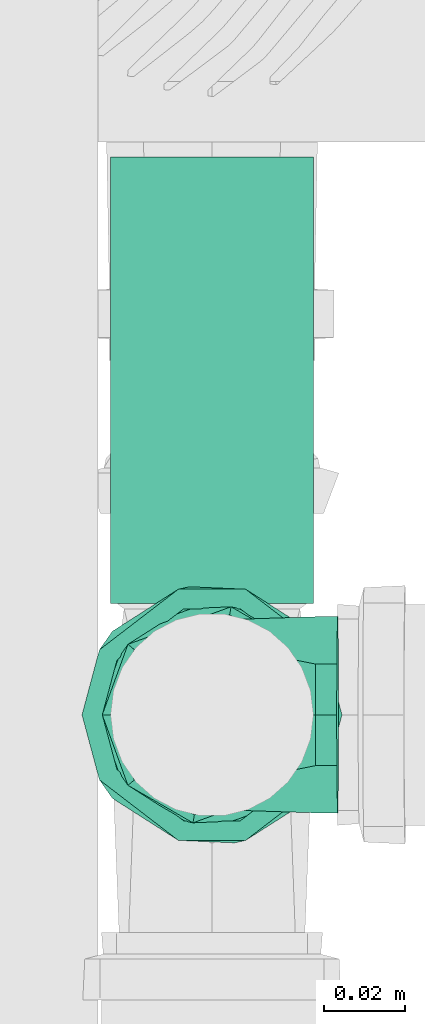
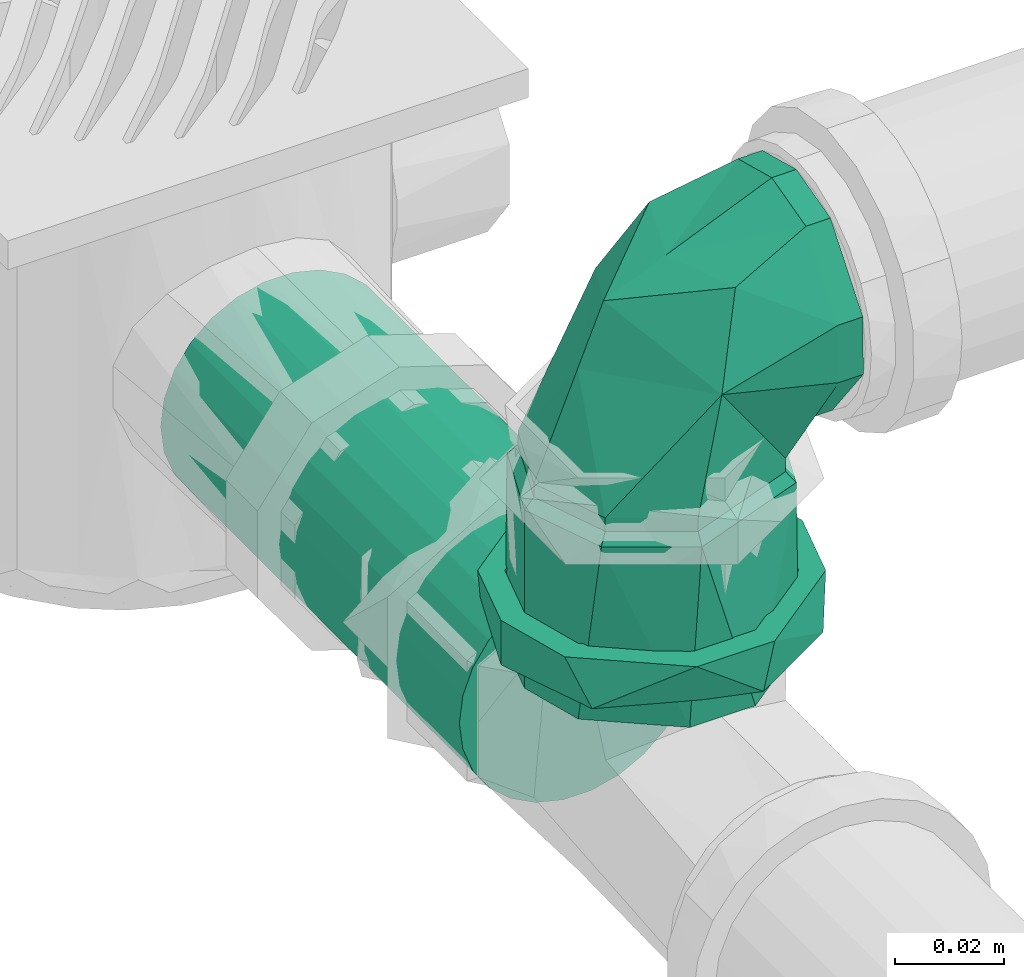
# One storey, part 145 of 589: 1 flow fitting, 1 flow segment.
"""IFC2X3 building model written with IfcOpenShell, lengths in millimetres."""

from ifc_helpers import new_model, entity, si_unit, converted_unit, derived_unit, direction, frame, frame_2d, origin, place, context, subcontext, project, spatial, circle, extrude, faceted_brep, source, transform, mapped, material, type_object, type_shapes, element, save


model = new_model("IFC2X3")

# Units and contexts
model_context = context("Model", 3, precision=0.01, world=origin(), true_north=direction((6.123031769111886e-17, 1.0)))
body_context = subcontext(model_context, "Body", "Model", "MODEL_VIEW")
ifc_project = project(units=[si_unit("LENGTHUNIT", "METRE", prefix="MILLI"), si_unit("AREAUNIT", "SQUARE_METRE"), si_unit("VOLUMEUNIT", "CUBIC_METRE"), converted_unit("PLANEANGLEUNIT", "DEGREE", entity("IfcRatioMeasure", 0.017453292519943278), si_unit("PLANEANGLEUNIT", "RADIAN"), dimensions=[0, 0, 0, 0, 0, 0, 0]), si_unit("MASSUNIT", "GRAM", prefix="KILO"), derived_unit("MASSDENSITYUNIT", [(si_unit("MASSUNIT", "GRAM", prefix="KILO"), 1), (si_unit("LENGTHUNIT", "METRE"), -3)]), derived_unit("IONCONCENTRATIONUNIT", [(si_unit("MASSUNIT", "GRAM", prefix="KILO"), 1), (si_unit("LENGTHUNIT", "METRE"), -3)]), derived_unit("MOMENTOFINERTIAUNIT", [(si_unit("LENGTHUNIT", "METRE"), 4)]), si_unit("TIMEUNIT", "SECOND"), si_unit("FREQUENCYUNIT", "HERTZ"), si_unit("THERMODYNAMICTEMPERATUREUNIT", "DEGREE_CELSIUS"), derived_unit("THERMALTRANSMITTANCEUNIT", [(si_unit("MASSUNIT", "GRAM", prefix="KILO"), 1), (si_unit("THERMODYNAMICTEMPERATUREUNIT", "KELVIN"), -1), (si_unit("TIMEUNIT", "SECOND"), -3)]), derived_unit("THERMALCONDUCTANCEUNIT", [(si_unit("MASSUNIT", "GRAM", prefix="KILO"), 1), (si_unit("THERMODYNAMICTEMPERATUREUNIT", "KELVIN"), -1), (si_unit("TIMEUNIT", "SECOND"), -3), (si_unit("LENGTHUNIT", "METRE"), 1)]), derived_unit("VOLUMETRICFLOWRATEUNIT", [(si_unit("LENGTHUNIT", "METRE"), 3), (si_unit("TIMEUNIT", "SECOND"), -1)]), derived_unit("MASSFLOWRATEUNIT", [(si_unit("MASSUNIT", "GRAM", prefix="KILO"), 1), (si_unit("TIMEUNIT", "SECOND"), -1)]), derived_unit("ROTATIONALFREQUENCYUNIT", [(si_unit("TIMEUNIT", "SECOND"), -1)]), si_unit("ELECTRICCURRENTUNIT", "AMPERE"), si_unit("ELECTRICVOLTAGEUNIT", "VOLT"), si_unit("POWERUNIT", "WATT"), si_unit("FORCEUNIT", "NEWTON", prefix="KILO"), si_unit("ILLUMINANCEUNIT", "LUX"), si_unit("LUMINOUSFLUXUNIT", "LUMEN"), si_unit("LUMINOUSINTENSITYUNIT", "CANDELA"), derived_unit("USERDEFINED", [(si_unit("MASSUNIT", "GRAM", prefix="KILO"), -1), (si_unit("LENGTHUNIT", "METRE"), -2), (si_unit("TIMEUNIT", "SECOND"), 3), (si_unit("LUMINOUSFLUXUNIT", "LUMEN"), 1)]), derived_unit("USERDEFINED", [(si_unit("MASSUNIT", "GRAM", prefix="KILO"), 1), (si_unit("TIMEUNIT", "SECOND"), -3), (si_unit("LENGTHUNIT", "METRE"), 3), (si_unit("ELECTRICCURRENTUNIT", "AMPERE"), -2)]), derived_unit("SOUNDPOWERUNIT", [(si_unit("MASSUNIT", "GRAM", prefix="KILO"), 1), (si_unit("TIMEUNIT", "SECOND"), -3), (si_unit("LENGTHUNIT", "METRE"), 2)]), derived_unit("SOUNDPRESSUREUNIT", [(si_unit("MASSUNIT", "GRAM", prefix="KILO"), 1), (si_unit("LENGTHUNIT", "METRE"), -1), (si_unit("TIMEUNIT", "SECOND"), -2)]), derived_unit("LINEARVELOCITYUNIT", [(si_unit("LENGTHUNIT", "METRE"), 1), (si_unit("TIMEUNIT", "SECOND"), -1)]), si_unit("PRESSUREUNIT", "PASCAL"), derived_unit("USERDEFINED", [(si_unit("MASSUNIT", "GRAM", prefix="KILO"), 1), (si_unit("LENGTHUNIT", "METRE"), -2), (si_unit("TIMEUNIT", "SECOND"), -2)]), derived_unit("LINEARFORCEUNIT", [(si_unit("MASSUNIT", "GRAM", prefix="KILO"), 1), (si_unit("TIMEUNIT", "SECOND"), -2)]), derived_unit("PLANARFORCEUNIT", [(si_unit("MASSUNIT", "GRAM", prefix="KILO"), 1), (si_unit("LENGTHUNIT", "METRE"), -1), (si_unit("TIMEUNIT", "SECOND"), -2)]), derived_unit("SPECIFICHEATCAPACITYUNIT", [(si_unit("THERMODYNAMICTEMPERATUREUNIT", "KELVIN"), -1), (si_unit("LENGTHUNIT", "METRE"), 2), (si_unit("TIMEUNIT", "SECOND"), -2)]), derived_unit("HEATINGVALUEUNIT", [(si_unit("LENGTHUNIT", "METRE"), 2), (si_unit("TIMEUNIT", "SECOND"), -2)]), derived_unit("VAPORPERMEABILITYUNIT", [(si_unit("LENGTHUNIT", "METRE"), -1), (si_unit("TIMEUNIT", "SECOND"), 1)]), derived_unit("DYNAMICVISCOSITYUNIT", [(si_unit("MASSUNIT", "GRAM", prefix="KILO"), 1), (si_unit("TIMEUNIT", "SECOND"), -1), (si_unit("LENGTHUNIT", "METRE"), -1)]), derived_unit("THERMALEXPANSIONCOEFFICIENTUNIT", [(si_unit("THERMODYNAMICTEMPERATUREUNIT", "KELVIN"), -1)]), derived_unit("MODULUSOFELASTICITYUNIT", [(si_unit("MASSUNIT", "GRAM", prefix="KILO"), 1), (si_unit("LENGTHUNIT", "METRE"), -1), (si_unit("TIMEUNIT", "SECOND"), -2)]), derived_unit("ISOTHERMALMOISTURECAPACITYUNIT", [(si_unit("LENGTHUNIT", "METRE"), 3), (si_unit("MASSUNIT", "GRAM", prefix="KILO"), -1)]), derived_unit("MOISTUREDIFFUSIVITYUNIT", [(si_unit("TIMEUNIT", "SECOND"), -1), (si_unit("LENGTHUNIT", "METRE"), 2)])], contexts=[model_context])

# Site, building, storey
site_placement = place(None, origin())
site = spatial("IfcSite", under=ifc_project, at=site_placement, Name="Default", CompositionType="ELEMENT")
building_placement = place(site_placement, origin())
building = spatial("IfcBuilding", under=site, at=building_placement, CompositionType="ELEMENT")
storey_placement = place(building_placement, frame((0.0, 0.0, 100.0)))
storey = spatial("IfcBuildingStorey", under=building, at=storey_placement, Name="TÉRREO", CompositionType="ELEMENT", Elevation=100.0)

# Flow segment
pipe_segment_type = type_object("IfcPipeSegmentType", Name="Tipos de tubos:PVC Esgoto Série Normal", PredefinedType="NOTDEFINED")
flow_segment_placement = place(storey_placement, origin())
element("IfcFlowSegment", 1, at=flow_segment_placement, inside=storey, type_object=pipe_segment_type, Name="Tipos de tubos:PVC Esgoto Série Normal", ObjectType="Tipos de tubos:PVC Esgoto Série Normal", context=body_context, shape_type="SweptSolid", body=[
    extrude(circle(Radius=25.0, at=frame_2d((0.0, -1.6919798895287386e-14), x_axis=(1.0, 0.0))), frame((7449.442851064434, -8395.50630799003, -246.193823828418), z_axis=(0.0, 1.0, 0.0), x_axis=(-1.0, 0.0, 0.0)), (0.0, 0.0, 1.0), 109.8662797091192),
])

# Flow fitting
ifc_material = material(Name="PVC Série Normal")
pipe_fitting_type = type_object("IfcPipeFittingType", Name="PVC Esgoto_Joelho 45_90_Rodrigo MEP:a. Série Normal", PredefinedType="NOTDEFINED", material=ifc_material)
shared_shape = source(origin(), body_context, "Body", "Brep", [
    faceted_brep([(-6.212752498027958, 25.804714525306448, 24.14814565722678), (-21.392152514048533, 25.95650852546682, 12.500000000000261), (-24.741349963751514, 25.990000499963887, 0.0), (-21.392152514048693, 25.956508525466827, -12.499999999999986), (-6.21275249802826, 25.804714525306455, -24.1481456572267), (6.727552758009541, 25.675311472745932, -24.14814565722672), (21.906952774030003, 25.52351747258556, -12.500000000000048), (25.256150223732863, 25.490025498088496, 0.0), (21.906952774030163, 25.52351747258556, 12.499999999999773), (6.7275527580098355, 25.675311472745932, 24.148145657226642), (25.308147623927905, 30.689765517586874, 0.0), (21.958950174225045, 30.72325749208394, -12.500000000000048), (6.779550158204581, 30.87505149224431, -24.14814565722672), (-6.160755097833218, 31.004454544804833, -24.1481456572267), (-21.34015511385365, 31.156248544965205, -12.499999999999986), (-24.689352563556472, 31.18974051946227, 0.0), (-21.340155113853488, 31.1562485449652, 12.500000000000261), (-6.160755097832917, 31.00445454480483, 24.14814565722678), (6.779550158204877, 30.87505149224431, 24.148145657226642), (21.958950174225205, 30.72325749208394, 12.499999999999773)], [[[0, 1, 2, 3, 4, 5, 6, 7, 8, 9]], [[10, 11, 12, 13, 14, 15, 16, 17, 18, 19]], [[7, 10, 19, 8]], [[8, 19, 18, 9]], [[18, 17, 0, 9]], [[0, 17, 16, 1]], [[1, 16, 15, 2]], [[2, 15, 14, 3]], [[3, 14, 13, 4]], [[13, 12, 5, 4]], [[5, 12, 11, 6]], [[6, 11, 10, 7]]]),
    faceted_brep([(-70.94129996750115, -6.988114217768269, -26.07999730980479), (-70.94129996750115, -6.47047612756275, -24.14814565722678), (-70.94129996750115, 6.4704761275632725, -24.148145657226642), (-70.94129996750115, -23.382685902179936, -13.499999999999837), (-70.94129996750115, 6.988114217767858, -26.0799973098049), (-70.94129996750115, -21.650635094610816, -12.500000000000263), (-70.94129996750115, -25.0, 0.0), (-70.94129996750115, -27.0, 0.0), (-70.94129996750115, -21.650635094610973, 12.499999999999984), (-70.94129996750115, -23.382685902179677, 13.500000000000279), (-70.94129996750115, -6.470476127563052, 24.1481456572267), (-70.94129996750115, -6.98811421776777, 26.079997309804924), (-70.94129996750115, 6.470476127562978, 24.14814565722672), (-70.94129996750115, 6.988114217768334, 26.07999730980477), (-70.94129996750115, 21.650635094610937, 12.500000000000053), (-70.94129996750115, 23.38268590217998, 13.499999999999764), (-70.94129996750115, 27.0, 0.0), (-70.94129996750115, 25.0, 0.0), (-70.94129996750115, 23.382685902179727, -13.500000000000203), (-70.94129996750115, 21.6506350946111, -12.499999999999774), (-30.94129996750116, 21.650635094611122, -12.499999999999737), (-30.94129996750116, 25.0, 0.0), (-30.94129996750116, 6.4704761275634, -24.148145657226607), (-30.94129996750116, -6.470476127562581, -24.148145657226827), (-30.94129996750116, -21.650635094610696, -12.500000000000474), (-30.94129996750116, -25.0, 0.0), (-30.94129996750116, -21.65063509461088, 12.500000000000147), (-30.94129996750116, -6.470476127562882, 24.14814565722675), (-30.94129996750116, 6.470476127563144, 24.148145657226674), (-30.94129996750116, 21.650635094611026, 12.499999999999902), (-30.94129996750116, 27.0, 0.0), (-30.941299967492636, 20.682232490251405, 17.356418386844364), (-30.94129996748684, 4.685536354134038, 26.59033187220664), (-30.94129996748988, -20.686585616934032, 17.35122979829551), (-30.94129996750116, -27.0, 0.0), (-30.941299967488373, -8.000524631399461, 21.970780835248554), (-30.94129996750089, -20.686585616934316, -17.35122979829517), (-30.9412999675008, -4.6922062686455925, -26.589155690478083), (-30.94129996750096, 20.682232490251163, -17.356418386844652), (-30.94129996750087, 7.995013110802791, -21.97278703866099), (-28.74129996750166, -4.338459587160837, -24.62067765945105), (-28.741299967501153, 25.0, 0.0), (-28.741299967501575, 19.154245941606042, -16.065953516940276), (-28.741299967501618, 7.407893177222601, -20.34331558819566), (-28.741299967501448, -19.15021526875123, -16.070757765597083), (-28.741299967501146, -25.0, 0.0), (-28.741299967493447, -19.150215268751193, 16.07075776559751), (-28.741299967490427, -7.402789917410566, 20.345173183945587), (-28.74129996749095, 19.15424594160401, 16.065953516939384), (-28.741299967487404, 4.344635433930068, 24.619588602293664), (-25.741299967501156, 25.0, 0.0), (-25.741299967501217, 19.151286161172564, 16.069481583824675), (-25.741299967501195, 4.341396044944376, 24.62016003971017), (-25.741299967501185, -7.404832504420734, 20.344954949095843), (-25.741299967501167, -19.15106105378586, 16.069749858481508), (-25.741299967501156, -25.0, 0.0), (-25.741299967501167, -19.15106105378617, -16.069749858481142), (-25.741299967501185, -4.341051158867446, -24.62022085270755), (-25.741299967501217, 19.15128616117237, -16.069481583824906), (-25.7412999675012, 7.405117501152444, -20.344851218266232), (-6.212752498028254, 25.80471452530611, -24.1481456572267), (-21.39215251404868, 25.95650852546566, -12.499999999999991), (-24.74134996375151, 25.990000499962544, 0.0), (-21.3921525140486, 25.956508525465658, 12.500000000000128), (-6.2127524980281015, 25.80471452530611, 24.14814565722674), (6.7275527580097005, 25.67531147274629, 24.148145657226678), (21.906952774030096, 25.52351747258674, 12.499999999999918), (25.256150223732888, 25.490025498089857, 0.0), (21.90695277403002, 25.523517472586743, -12.500000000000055), (6.727552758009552, 25.67531147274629, -24.14814565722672), (-0.83580225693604, 1.5246716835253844, 23.354962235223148), (-3.2027279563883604, -15.730161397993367, 0.0), (10.140389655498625, -10.242300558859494, 0.0), (16.135012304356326, 8.632944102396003, 15.848254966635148), (-25.03773742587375, 25.289366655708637, 0.0), (15.761400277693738, 3.0452732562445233, 0.0), (16.135011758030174, 8.632944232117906, -15.848255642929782), (-0.8751695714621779, 1.433288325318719, -23.341145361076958)], [[[0, 1, 2]], [[1, 0, 3]], [[2, 4, 0]], [[3, 5, 1]], [[3, 6, 5]], [[6, 3, 7]], [[8, 6, 7]], [[8, 7, 9]], [[9, 10, 8]], [[9, 11, 10]], [[10, 11, 12]], [[13, 12, 11]], [[13, 14, 12]], [[14, 13, 15]], [[16, 14, 15]], [[17, 14, 16]], [[18, 17, 16]], [[18, 19, 17]], [[19, 18, 4]], [[4, 2, 19]], [[20, 21, 17, 19]], [[22, 20, 19, 2]], [[2, 1, 23, 22]], [[24, 23, 1, 5]], [[25, 24, 5, 6]], [[26, 25, 6, 8]], [[27, 26, 8, 10]], [[10, 12, 28, 27]], [[29, 28, 12, 14]], [[21, 29, 14, 17]], [[16, 15, 30]], [[15, 31, 30]], [[31, 15, 13]], [[31, 13, 32]], [[33, 11, 9]], [[34, 9, 7]], [[11, 33, 35, 32]], [[33, 9, 34]], [[11, 32, 13]], [[7, 3, 34]], [[3, 36, 34]], [[36, 3, 0]], [[36, 0, 37]], [[38, 4, 18]], [[30, 18, 16]], [[4, 38, 39, 37]], [[38, 18, 30]], [[4, 37, 0]], [[28, 29, 21, 20, 22, 23, 24, 25, 26, 27]], [[39, 40, 37]], [[41, 42, 30]], [[30, 42, 38]], [[38, 43, 39]], [[44, 45, 36]], [[38, 42, 43]], [[36, 37, 44]], [[34, 36, 45]], [[40, 39, 43]], [[44, 37, 40]], [[45, 46, 33]], [[33, 34, 45]], [[46, 35, 33]], [[46, 47, 35]], [[47, 32, 35]], [[48, 41, 30]], [[48, 31, 49]], [[31, 48, 30]], [[32, 47, 49]], [[49, 31, 32]], [[41, 48, 50]], [[48, 51, 50]], [[51, 48, 49]], [[51, 49, 52]], [[52, 47, 53]], [[46, 54, 53]], [[46, 45, 54]], [[49, 47, 52]], [[54, 45, 55]], [[47, 46, 53]], [[45, 44, 56]], [[45, 56, 55]], [[56, 44, 57]], [[58, 59, 43]], [[44, 40, 57]], [[40, 59, 57]], [[58, 43, 42]], [[42, 50, 58]], [[50, 42, 41]], [[59, 40, 43]], [[60, 61, 62, 63, 64, 65, 66, 67, 68, 69]], [[52, 70, 51]], [[54, 71, 70]], [[70, 52, 53, 54]], [[72, 73, 70]], [[50, 63, 74]], [[51, 63, 50]], [[54, 55, 71]], [[72, 70, 71]], [[75, 67, 66]], [[65, 70, 73]], [[73, 75, 66]], [[74, 63, 62]], [[73, 66, 65]], [[63, 51, 64]], [[70, 64, 51]], [[73, 72, 75]], [[65, 64, 70]], [[72, 76, 75]], [[71, 55, 56]], [[77, 58, 60]], [[77, 57, 59, 58]], [[77, 71, 56]], [[56, 57, 77]], [[77, 69, 76]], [[58, 50, 61]], [[74, 62, 61]], [[71, 77, 72]], [[61, 60, 58]], [[68, 75, 76]], [[68, 67, 75]], [[72, 77, 76]], [[76, 69, 68]], [[60, 69, 77]], [[61, 50, 74]]]),
    faceted_brep([(-53.94129996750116, 6.9881142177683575, -26.07999730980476), (-53.94129996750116, -6.988114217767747, -26.079997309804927), (-53.94129996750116, -8.282209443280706, -30.909626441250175), (-53.94129996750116, 8.28220944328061, -30.9096264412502), (-53.94129996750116, 23.38268590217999, -13.499999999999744), (-53.94129996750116, -27.712812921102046, -16.0), (-53.94129996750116, -23.38268590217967, -13.500000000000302), (-53.94129996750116, -27.0, 0.0), (-53.94129996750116, -32.0, 0.0), (-53.94129996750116, -23.382685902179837, 13.500000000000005), (-53.94129996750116, -27.712812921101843, 16.0), (-53.94129996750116, -6.988114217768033, 26.07999730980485), (-53.94129996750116, -8.28220944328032, 30.909626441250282), (-53.94129996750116, 6.988114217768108, 26.07999730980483), (-53.94129996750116, 8.282209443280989, 30.909626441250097), (-53.94129996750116, 23.382685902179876, 13.499999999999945), (-53.94129996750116, 27.712812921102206, 16.0), (-53.94129996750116, 32.0, 0.0), (-53.94129996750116, 27.0, 0.0), (-53.94129996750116, 27.712812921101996, -16.0), (-63.94129996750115, 27.0, 0.0), (-65.24129996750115, 27.0, 0.0), (-63.94129996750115, 25.191342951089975, -6.750000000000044), (-63.94129996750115, 23.38268590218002, -13.499999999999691), (-63.94129996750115, 19.284042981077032, -16.644999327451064), (-63.94129996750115, 15.185400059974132, -19.789998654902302), (-63.94129996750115, 11.086757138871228, -22.934997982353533), (-63.94129996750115, 6.988114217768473, -26.07999730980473), (-63.94129996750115, 0.0, -26.079997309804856), (-63.94129996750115, -6.988114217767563, -26.079997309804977), (-63.94129996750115, -11.086757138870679, -22.934997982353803), (-63.94129996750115, -15.185400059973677, -19.789998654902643), (-63.94129996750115, -19.284042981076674, -16.644999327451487), (-63.94129996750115, -23.382685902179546, -13.50000000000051), (-63.94129996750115, -25.191342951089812, -6.750000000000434), (-65.24129996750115, -27.0, 0.0), (-63.94129996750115, -27.0, 0.0), (-63.94129996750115, -25.19134295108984, 6.750000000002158), (-63.94129996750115, -23.382685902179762, 13.500000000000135), (-63.94129996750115, -19.284042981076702, 16.64499932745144), (-63.94129996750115, -15.185400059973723, 19.7899986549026), (-63.94129996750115, -11.086757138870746, 22.934997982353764), (-63.94129996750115, -6.988114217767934, 26.079997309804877), (-63.94129996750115, 0.0, 26.079997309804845), (-63.94129996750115, 6.988114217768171, 26.079997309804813), (-63.94129996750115, 11.086757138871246, 22.93499798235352), (-63.94129996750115, 15.185400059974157, 19.789998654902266), (-63.94129996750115, 19.284042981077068, 16.644999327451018), (-63.94129996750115, 23.382685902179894, 13.499999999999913), (-63.94129996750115, 25.19134295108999, 6.74999999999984), (-63.94129996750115, 32.0, 0.0), (-63.94129996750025, 24.512275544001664, 20.570569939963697), (-63.94129996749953, -5.561133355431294, 31.51307341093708), (-63.94129996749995, -24.51743480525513, 20.56442050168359), (-63.94129996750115, -32.0, 0.0), (-63.9412999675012, -24.51743480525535, -20.564420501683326), (-63.941299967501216, 5.553228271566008, -31.514467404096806), (-63.94129996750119, 24.512275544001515, -20.570569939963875), (-65.2412999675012, -23.84329280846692, -8.675614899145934), (-65.24129996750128, -20.686585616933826, -17.351229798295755), (-65.24129996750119, 23.841116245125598, -8.678209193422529), (-65.24129996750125, 20.6822324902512, -17.356418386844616), (-65.24129996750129, -12.689395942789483, -21.970192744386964), (-65.24129996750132, -4.692206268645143, -26.589155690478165), (-65.24129996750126, 14.338622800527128, -19.664602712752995), (-65.24129996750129, 1.6514034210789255, -24.280971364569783), (-65.24129996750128, 7.995013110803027, -21.97278703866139), (-65.24129996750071, 23.84111624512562, 8.678209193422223), (-65.24129996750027, 20.68223249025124, 17.35641838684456), (-65.24129996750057, -23.843292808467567, 8.675614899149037), (-65.24129996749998, -20.68658561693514, 17.351229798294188), (-65.24129996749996, 12.683884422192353, 21.973375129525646), (-65.24129996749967, 4.685536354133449, 26.590331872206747), (-65.2412999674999, -14.343555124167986, 19.66100531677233), (-65.24129996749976, -1.6574941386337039, 24.280556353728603), (-65.24129996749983, -8.000524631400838, 21.97078083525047)], [[[0, 1, 2]], [[2, 3, 0]], [[4, 0, 3]], [[5, 2, 1]], [[1, 6, 5]], [[6, 7, 5]], [[8, 5, 7]], [[8, 7, 9]], [[10, 8, 9]], [[9, 11, 10]], [[11, 12, 10]], [[13, 12, 11]], [[12, 13, 14]], [[13, 15, 14]], [[16, 14, 15]], [[16, 15, 17]], [[17, 15, 18]], [[18, 4, 19]], [[17, 18, 19]], [[3, 19, 4]], [[4, 18, 20, 21, 22, 23]], [[0, 4, 23, 24, 25, 26, 27]], [[0, 27, 28, 29, 1]], [[6, 1, 29, 30, 31, 32, 33]], [[7, 6, 33, 34, 35, 36]], [[9, 7, 36, 35, 37, 38]], [[11, 9, 38, 39, 40, 41, 42]], [[11, 42, 43, 44, 13]], [[15, 13, 44, 45, 46, 47, 48]], [[18, 15, 48, 49, 21, 20]], [[50, 51, 16]], [[50, 16, 17]], [[16, 51, 14]], [[51, 52, 14]], [[12, 52, 53]], [[10, 53, 54]], [[53, 10, 12]], [[10, 54, 8]], [[52, 12, 14]], [[54, 55, 5]], [[54, 5, 8]], [[5, 55, 2]], [[55, 56, 2]], [[3, 56, 57]], [[19, 57, 50]], [[57, 19, 3]], [[19, 50, 17]], [[56, 3, 2]], [[58, 33, 59]], [[23, 60, 61]], [[32, 31, 59, 33]], [[30, 29, 62, 31]], [[24, 23, 61, 25]], [[29, 28, 63]], [[26, 25, 64]], [[65, 63, 28]], [[31, 62, 59]], [[63, 62, 29]], [[60, 22, 21]], [[34, 58, 35]], [[66, 26, 64]], [[28, 27, 65]], [[27, 66, 65]], [[27, 26, 66]], [[64, 25, 61]], [[34, 33, 58]], [[60, 23, 22]], [[67, 48, 68]], [[38, 69, 70]], [[47, 46, 68, 48]], [[45, 44, 71, 46]], [[39, 38, 70, 40]], [[44, 43, 72]], [[41, 40, 73]], [[74, 72, 43]], [[46, 71, 68]], [[72, 71, 44]], [[69, 37, 35]], [[49, 67, 21]], [[75, 41, 73]], [[43, 42, 74]], [[42, 75, 74]], [[42, 41, 75]], [[73, 40, 70]], [[49, 48, 67]], [[69, 38, 37]], [[54, 35, 58, 59, 55]], [[55, 59, 62, 63]], [[55, 63, 56]], [[57, 61, 60, 21, 50]], [[57, 56, 61]], [[56, 63, 65, 66, 64, 61]], [[50, 21, 67, 68, 51]], [[51, 68, 71, 72]], [[51, 72, 52]], [[53, 70, 69, 35, 54]], [[53, 52, 70]], [[52, 72, 74, 75, 73, 70]]]),
])
type_shapes(pipe_fitting_type, [shared_shape])
flow_fitting_placement = place(storey_placement, frame((7449.442851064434, -8422.90630799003, -150.0), z_axis=(0.0, 1.0, 0.0), x_axis=(0.0, 0.0, 1.0)))
element("IfcFlowFitting", 2, at=flow_fitting_placement, inside=storey, type_object=pipe_fitting_type, material=ifc_material, Name="PVC Esgoto_Joelho 45_90_Rodrigo MEP:a. Série Normal", ObjectType="PVC Esgoto_Joelho 45_90_Rodrigo MEP:a. Série Normal", context=body_context, shape_type="MappedRepresentation", body=[
    mapped(shared_shape, transform((0.0, 0.0, 0.0), scale=1.0)),
])

save(model, "model.ifc")
